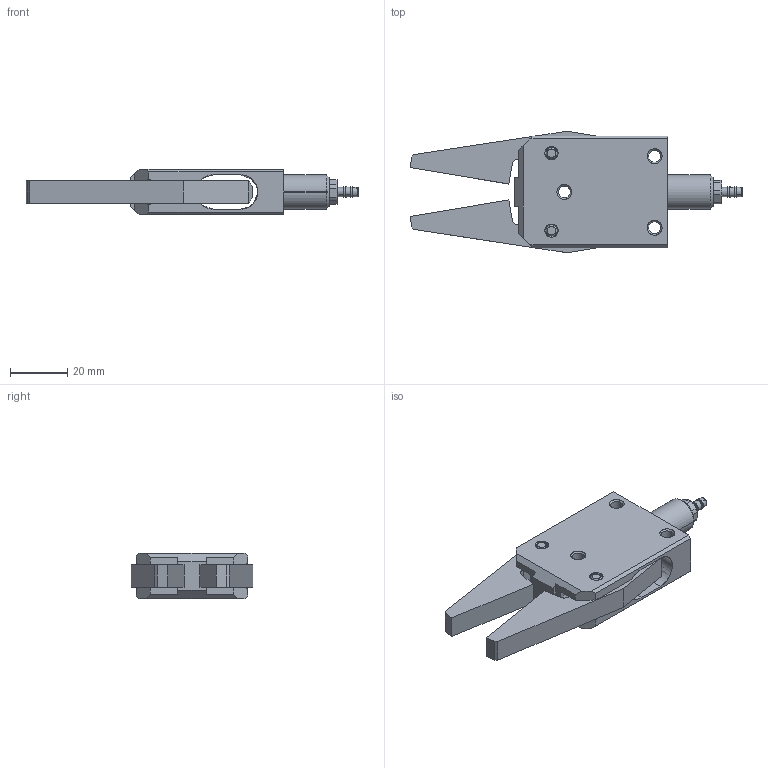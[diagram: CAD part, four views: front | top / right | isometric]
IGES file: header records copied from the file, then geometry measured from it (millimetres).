
Start section: SolidWorks IGES file using analytic representation for surfaces
Global section: file name: E:\2010 カタログ（別冊）\Eins10年4月発売予定新商品データ0311\New CHK-E\CHK-EL1-12-C\022994.IGS; native system: SolidWorks 2006 by SolidWorks Corporation; preprocessor: SolidWorks 2006 by SolidWorks Corporation; author: CAD53; date: 100604.130925; units: millimetre
Bounding box: 115.88 x 42.43 x 16 mm (x, y, z)
Surface area: 14872.6 mm2 (no closed solid volume)
Topology: 0 solids, 0 shells, 137 faces, 1797 edges, 1797 vertices
Faces by surface type: revolution 78, bspline 59
